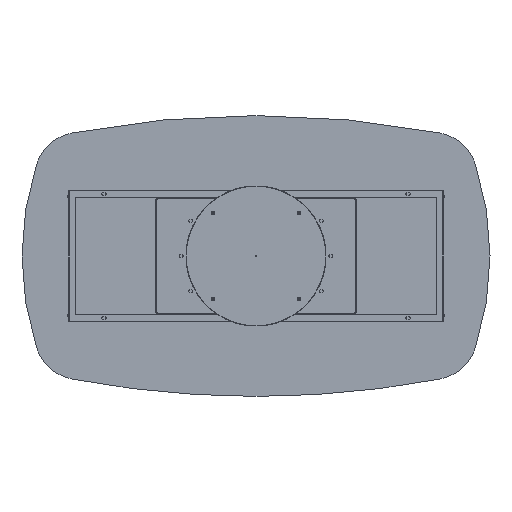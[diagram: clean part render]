
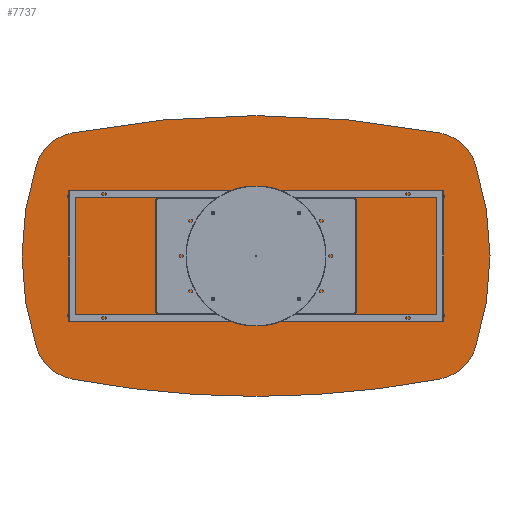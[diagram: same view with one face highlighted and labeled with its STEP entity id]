
A CAD part, front view. The second image highlights one B-rep face of the part: STEP entity #7737.
In plain terms, the highlighted planar face has unit normal (0, -1, 0).
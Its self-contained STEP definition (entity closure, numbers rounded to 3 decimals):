
#99 = DIRECTION ( 'NONE',  ( 0., 1., 0. ) ) ;
#142 = DIRECTION ( 'NONE',  ( 0., 1., 0. ) ) ;
#416 = DIRECTION ( 'NONE',  ( 0., 0., 1. ) ) ;
#456 = ORIENTED_EDGE ( 'NONE', *, *, #2887, .F. ) ;
#608 = AXIS2_PLACEMENT_3D ( 'NONE', #5038, #7756, #416 ) ;
#680 = DIRECTION ( 'NONE',  ( 0., -1., 0. ) ) ;
#690 = CIRCLE ( 'NONE', #4025, 200. ) ;
#715 = CARTESIAN_POINT ( 'NONE',  ( -747.529, 0., -329.529 ) ) ;
#736 = ORIENTED_EDGE ( 'NONE', *, *, #6178, .T. ) ;
#746 = CARTESIAN_POINT ( 'NONE',  ( 0., 0., 3600. ) ) ;
#930 = VERTEX_POINT ( 'NONE', #12113 ) ;
#988 = ORIENTED_EDGE ( 'NONE', *, *, #1349, .T. ) ;
#1015 = CIRCLE ( 'NONE', #2190, 1261. ) ;
#1105 = CARTESIAN_POINT ( 'NONE',  ( 784.906, 0., 526.006 ) ) ;
#1132 = DIRECTION ( 'NONE',  ( 0., 0., 1. ) ) ;
#1349 = EDGE_CURVE ( 'NONE', #7326, #6221, #2223, .T. ) ;
#1746 = CARTESIAN_POINT ( 'NONE',  ( 747.529, 0., 329.529 ) ) ;
#1839 = EDGE_CURVE ( 'NONE', #6000, #2538, #690, .T. ) ;
#2064 = AXIS2_PLACEMENT_3D ( 'NONE', #11952, #10072, #11147 ) ;
#2190 = AXIS2_PLACEMENT_3D ( 'NONE', #4831, #142, #11404 ) ;
#2223 = CIRCLE ( 'NONE', #9539, 200. ) ;
#2292 = EDGE_CURVE ( 'NONE', #6000, #930, #2867, .T. ) ;
#2414 = AXIS2_PLACEMENT_3D ( 'NONE', #7423, #7290, #9222 ) ;
#2535 = DIRECTION ( 'NONE',  ( 0., -1., 0. ) ) ;
#2538 = VERTEX_POINT ( 'NONE', #1105 ) ;
#2867 = CIRCLE ( 'NONE', #2064, 1261. ) ;
#2887 = EDGE_CURVE ( 'NONE', #9286, #5033, #9589, .T. ) ;
#3120 = EDGE_CURVE ( 'NONE', #10712, #6510, #9021, .T. ) ;
#3422 = ORIENTED_EDGE ( 'NONE', *, *, #1839, .T. ) ;
#3864 = FACE_OUTER_BOUND ( 'NONE', #11558, .T. ) ;
#3913 = DIRECTION ( 'NONE',  ( 0., 0., 1. ) ) ;
#4025 = AXIS2_PLACEMENT_3D ( 'NONE', #1746, #2535, #5313 ) ;
#4448 = DIRECTION ( 'NONE',  ( 0., 0., 1. ) ) ;
#4831 = CARTESIAN_POINT ( 'NONE',  ( 261., 0., 0. ) ) ;
#5033 = VERTEX_POINT ( 'NONE', #5961 ) ;
#5038 = CARTESIAN_POINT ( 'NONE',  ( 747.529, 0., -329.529 ) ) ;
#5092 = CARTESIAN_POINT ( 'NONE',  ( -784.906, 0., -526.006 ) ) ;
#5271 = AXIS2_PLACEMENT_3D ( 'NONE', #10063, #680, #4448 ) ;
#5313 = DIRECTION ( 'NONE',  ( 0., 0., 1. ) ) ;
#5750 = AXIS2_PLACEMENT_3D ( 'NONE', #7610, #6677, #1132 ) ;
#5819 = PLANE ( 'NONE',  #5750 ) ;
#5949 = EDGE_CURVE ( 'NONE', #5033, #6221, #7681, .T. ) ;
#5951 = CARTESIAN_POINT ( 'NONE',  ( -784.906, 0., 526.006 ) ) ;
#5961 = CARTESIAN_POINT ( 'NONE',  ( 0., 0., -600. ) ) ;
#6000 = VERTEX_POINT ( 'NONE', #7451 ) ;
#6178 = EDGE_CURVE ( 'NONE', #9286, #930, #12067, .T. ) ;
#6221 = VERTEX_POINT ( 'NONE', #5092 ) ;
#6481 = CARTESIAN_POINT ( 'NONE',  ( -937.639, 0., -391.646 ) ) ;
#6504 = DIRECTION ( 'NONE',  ( 0., 0., 1. ) ) ;
#6510 = VERTEX_POINT ( 'NONE', #8713 ) ;
#6677 = DIRECTION ( 'NONE',  ( 0., 1., 0. ) ) ;
#7019 = ORIENTED_EDGE ( 'NONE', *, *, #7934, .F. ) ;
#7210 = DIRECTION ( 'NONE',  ( 0., 1., 0. ) ) ;
#7290 = DIRECTION ( 'NONE',  ( 0., 1., 0. ) ) ;
#7326 = VERTEX_POINT ( 'NONE', #6481 ) ;
#7423 = CARTESIAN_POINT ( 'NONE',  ( 0., 0., -3600. ) ) ;
#7451 = CARTESIAN_POINT ( 'NONE',  ( 937.639, 0., 391.646 ) ) ;
#7610 = CARTESIAN_POINT ( 'NONE',  ( -130.5, 0., 1800. ) ) ;
#7681 = CIRCLE ( 'NONE', #9664, 4200. ) ;
#7726 = CIRCLE ( 'NONE', #2414, 4200. ) ;
#7737 = ADVANCED_FACE ( 'NONE', ( #3864 ), #5819, .F. ) ;
#7756 = DIRECTION ( 'NONE',  ( 0., -1., 0. ) ) ;
#7934 = EDGE_CURVE ( 'NONE', #10712, #2538, #7726, .T. ) ;
#8354 = CARTESIAN_POINT ( 'NONE',  ( 784.906, 0., -526.006 ) ) ;
#8647 = ORIENTED_EDGE ( 'NONE', *, *, #2292, .F. ) ;
#8713 = CARTESIAN_POINT ( 'NONE',  ( -937.639, 0., 391.646 ) ) ;
#9021 = CIRCLE ( 'NONE', #5271, 200. ) ;
#9222 = DIRECTION ( 'NONE',  ( 0., 0., 1. ) ) ;
#9286 = VERTEX_POINT ( 'NONE', #8354 ) ;
#9391 = EDGE_CURVE ( 'NONE', #7326, #6510, #1015, .T. ) ;
#9539 = AXIS2_PLACEMENT_3D ( 'NONE', #715, #11179, #6504 ) ;
#9589 = CIRCLE ( 'NONE', #11569, 4200. ) ;
#9664 = AXIS2_PLACEMENT_3D ( 'NONE', #746, #7210, #11013 ) ;
#10034 = ORIENTED_EDGE ( 'NONE', *, *, #3120, .T. ) ;
#10063 = CARTESIAN_POINT ( 'NONE',  ( -747.529, 0., 329.529 ) ) ;
#10072 = DIRECTION ( 'NONE',  ( 0., 1., 0. ) ) ;
#10231 = ORIENTED_EDGE ( 'NONE', *, *, #5949, .F. ) ;
#10334 = ORIENTED_EDGE ( 'NONE', *, *, #9391, .F. ) ;
#10479 = CARTESIAN_POINT ( 'NONE',  ( 0., 0., 3600. ) ) ;
#10712 = VERTEX_POINT ( 'NONE', #5951 ) ;
#11013 = DIRECTION ( 'NONE',  ( 0., 0., 1. ) ) ;
#11147 = DIRECTION ( 'NONE',  ( 0., 0., 1. ) ) ;
#11179 = DIRECTION ( 'NONE',  ( 0., -1., 0. ) ) ;
#11404 = DIRECTION ( 'NONE',  ( 0., 0., 1. ) ) ;
#11558 = EDGE_LOOP ( 'NONE', ( #7019, #10034, #10334, #988, #10231, #456, #736, #8647, #3422 ) ) ;
#11569 = AXIS2_PLACEMENT_3D ( 'NONE', #10479, #99, #3913 ) ;
#11952 = CARTESIAN_POINT ( 'NONE',  ( -261., 0., 0. ) ) ;
#12067 = CIRCLE ( 'NONE', #608, 200. ) ;
#12113 = CARTESIAN_POINT ( 'NONE',  ( 937.639, 0., -391.646 ) ) ;
